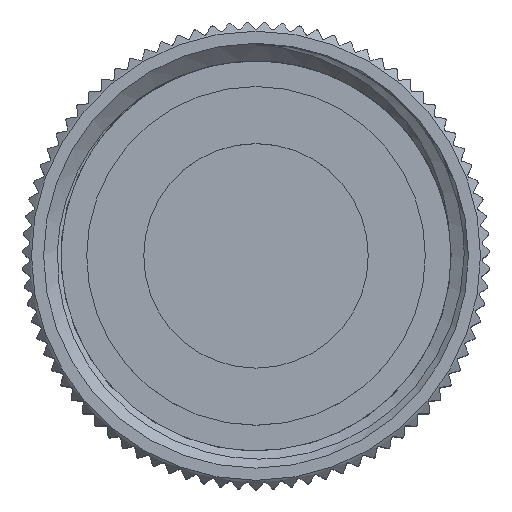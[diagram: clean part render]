
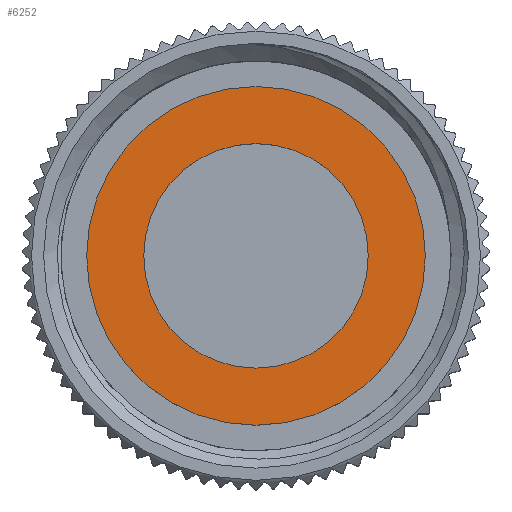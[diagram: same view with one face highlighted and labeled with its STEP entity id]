
A CAD part, top view. The second image highlights one B-rep face of the part: STEP entity #6252.
In plain terms, the highlighted planar face has unit normal (0, 0, 1).
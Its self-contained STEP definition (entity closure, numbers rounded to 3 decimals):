
#167 = DIRECTION ( 'NONE',  ( 0., 0., -1. ) ) ;
#560 = VERTEX_POINT ( 'NONE', #11216 ) ;
#698 = DIRECTION ( 'NONE',  ( 1., 0., 0. ) ) ;
#812 = FACE_BOUND ( 'NONE', #17405, .T. ) ;
#1868 = CIRCLE ( 'NONE', #3176, 9.05 ) ;
#1898 = CARTESIAN_POINT ( 'NONE',  ( 6., 0., -4.7 ) ) ;
#1981 = DIRECTION ( 'NONE',  ( 0., 0., 1. ) ) ;
#3176 = AXIS2_PLACEMENT_3D ( 'NONE', #5356, #13209, #698 ) ;
#3383 = EDGE_CURVE ( 'NONE', #560, #560, #1868, .T. ) ;
#4379 = AXIS2_PLACEMENT_3D ( 'NONE', #17440, #167, #12621 ) ;
#5356 = CARTESIAN_POINT ( 'NONE',  ( 0., 0., -4.7 ) ) ;
#5514 = EDGE_CURVE ( 'NONE', #18802, #18802, #11057, .T. ) ;
#6252 = ADVANCED_FACE ( 'NONE', ( #12257, #812 ), #6318, .F. ) ;
#6318 = PLANE ( 'NONE',  #4379 ) ;
#10270 = ORIENTED_EDGE ( 'NONE', *, *, #3383, .T. ) ;
#11004 = EDGE_LOOP ( 'NONE', ( #10270 ) ) ;
#11057 = CIRCLE ( 'NONE', #18083, 6. ) ;
#11216 = CARTESIAN_POINT ( 'NONE',  ( 9.05, 0., -4.7 ) ) ;
#12257 = FACE_OUTER_BOUND ( 'NONE', #11004, .T. ) ;
#12621 = DIRECTION ( 'NONE',  ( 0., -1., 0. ) ) ;
#12890 = DIRECTION ( 'NONE',  ( 1., 0., 0. ) ) ;
#12958 = CARTESIAN_POINT ( 'NONE',  ( 0., 0., -4.7 ) ) ;
#13209 = DIRECTION ( 'NONE',  ( 0., 0., 1. ) ) ;
#15157 = ORIENTED_EDGE ( 'NONE', *, *, #5514, .F. ) ;
#17405 = EDGE_LOOP ( 'NONE', ( #15157 ) ) ;
#17440 = CARTESIAN_POINT ( 'NONE',  ( 0., 9.05, -4.7 ) ) ;
#18083 = AXIS2_PLACEMENT_3D ( 'NONE', #12958, #1981, #12890 ) ;
#18802 = VERTEX_POINT ( 'NONE', #1898 ) ;
